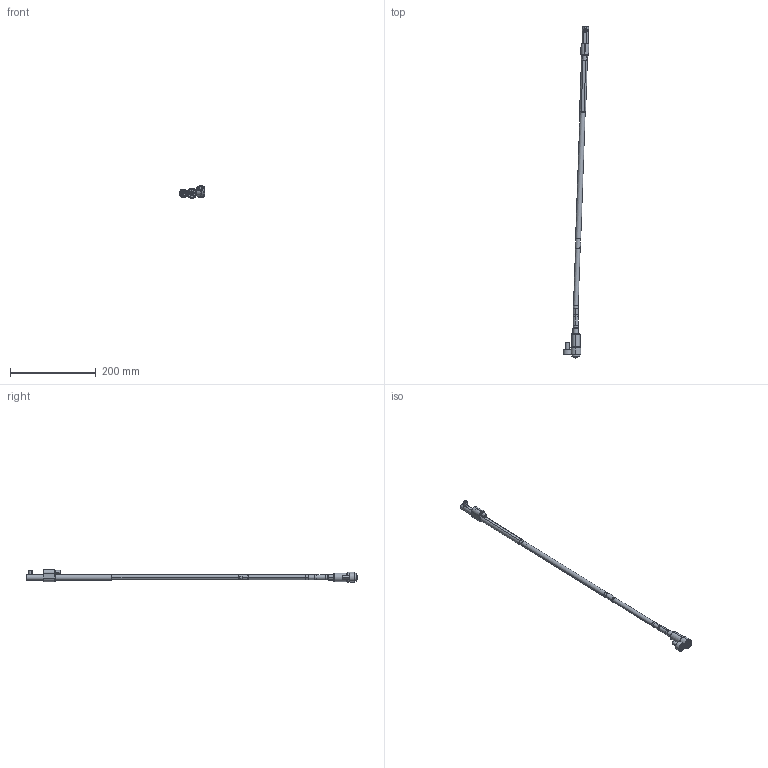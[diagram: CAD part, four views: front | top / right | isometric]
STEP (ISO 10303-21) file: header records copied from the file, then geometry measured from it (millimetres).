
FILE_DESCRIPTION (( 'STEP AP214' ), '1' );
FILE_NAME ('WL120125-EJE 2°.STEP', '2021-03-19T15:37:59', ( '' ), ( '' ), 'SwSTEP 2.0', 'SolidWorks 2019', '' );
FILE_SCHEMA (( 'AUTOMOTIVE_DESIGN' ));
Length unit declared in the file: millimetre
Products named in the file (17): 9DR2808-TOR; 1DIN912645_DIN 912 M6 x 45 --- 45C; WL120100-B; Web-WL12-A2; WL120100-D; WL120100-E; Web-WL12-F00.SLDPRT; WL120100-B1; 1DIN912820_DIN 912 M8 x 20 --- 20C; Web-WL12-A8; Web-WL12-A3; 3IMAN5X3-150_con sellador; WL120125-EJE 2°; Web-WL12-XX_ON-WL120125-2; Web-WL12-F01; 8WL12EJEP; Web-WL12-A1
Assembly tree (16 placements, depth 3):
  WL120125-EJE 2°
    Web-WL12-A8
    Web-WL12-XX_ON-WL120125-2
    Web-WL12-A3
    Web-WL12-A2
    Web-WL12-A1
    Web-WL12-F00.SLDPRT
      Web-WL12-F01
      1DIN912820_DIN 912 M8 x 20 --- 20C
      1DIN912645_DIN 912 M6 x 45 --- 45C
    WL120100-D
    8WL12EJEP
    WL120100-E
    9DR2808-TOR
    WL120100-B
      WL120100-B1
      3IMAN5X3-150_con sellador
Bounding box: 59.81 x 772.83 x 29.9 mm (x, y, z)
Volume: 116548.1 mm3; surface area: 51029.9 mm2
Topology: 15 solids, 15 shells, 432 faces, 906 edges, 525 vertices
Faces by surface type: plane 139, cylinder 123, cone 120, torus 50
Entity records: 13661 total; most frequent: DIRECTION 2240, CARTESIAN_POINT 2104, ORIENTED_EDGE 1788, AXIS2_PLACEMENT_3D 929, EDGE_CURVE 894, VERTEX_POINT 525, EDGE_LOOP 477, CIRCLE 476
